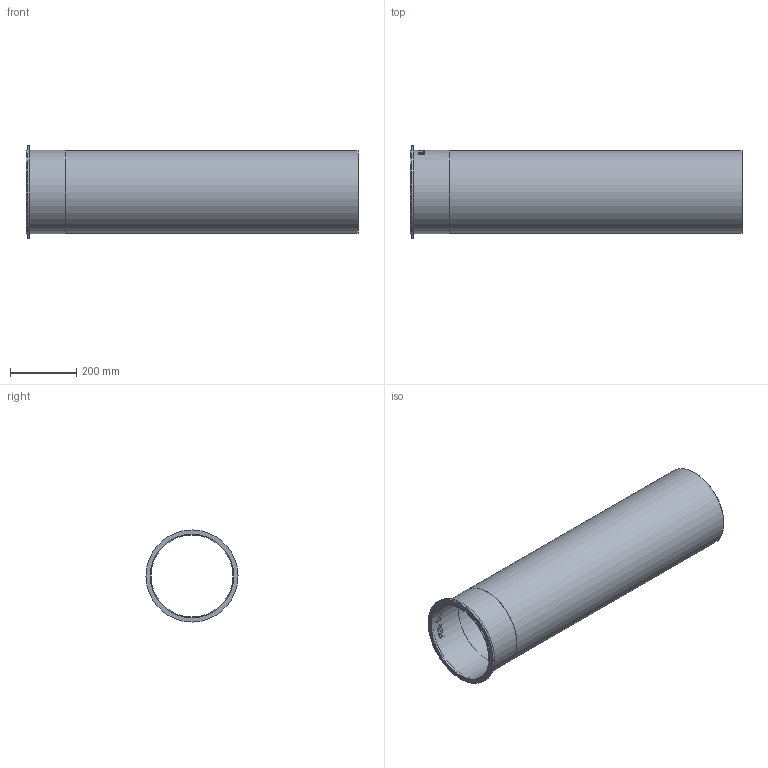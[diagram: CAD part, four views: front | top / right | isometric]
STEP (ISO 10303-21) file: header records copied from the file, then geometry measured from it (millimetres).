
FILE_DESCRIPTION((''),'2;1');
FILE_NAME('I:\WATTS\3D_CAD\3D_CAD_Models\Blucher_Drains\P_StraightPipe\WebsiteFiles\3D\STEP\P10-3.3-316.stp','2009-12-03T09:20:37',('menesek'),(''),'Autodesk Inventor 2010','Autodesk Inventor 2010','');
FILE_SCHEMA(('AUTOMOTIVE_DESIGN { 1 0 10303 214 1 1 1 1 }'));
Length unit declared in the file: inch
Products named in the file (1): P10-3.3-316
Bounding box: 1000 x 277.11 x 277.11 mm (x, y, z)
Volume: 1305055.7 mm3; surface area: 1586763 mm2
Topology: 1 solids, 1 shells, 109 faces, 285 edges, 190 vertices
Faces by surface type: plane 59, bspline 34, cylinder 16
Full cylindrical faces by diameter (mm): 246.888 x1, 249.936 x1, 250.952 x2, 277.114 x1
Entity records: 14221 total; most frequent: CARTESIAN_POINT 11843, ORIENTED_EDGE 548, DIRECTION 356, EDGE_CURVE 274, VERTEX_POINT 186, EDGE_LOOP 128, AXIS2_PLACEMENT_3D 120, VECTOR 116
